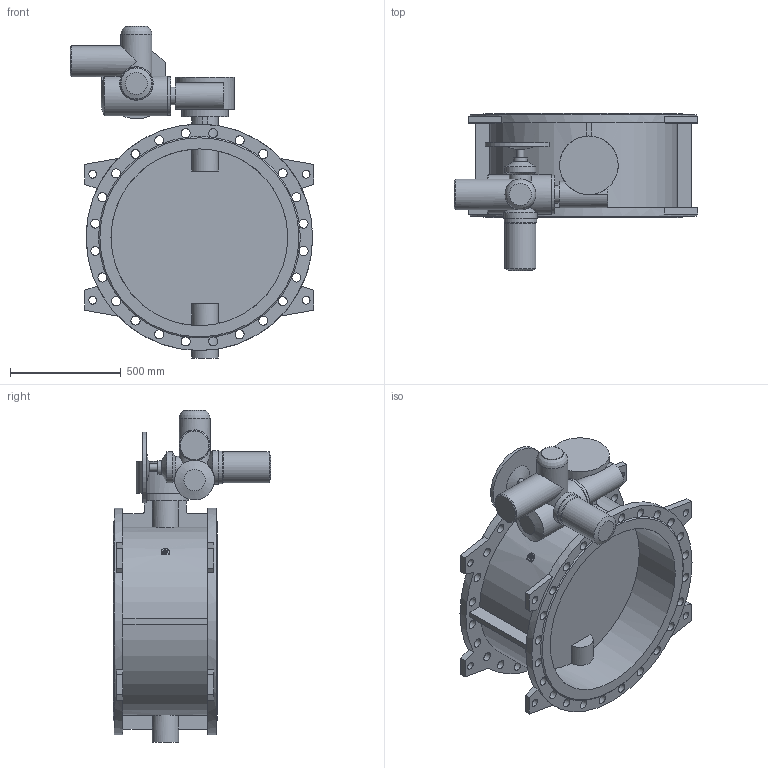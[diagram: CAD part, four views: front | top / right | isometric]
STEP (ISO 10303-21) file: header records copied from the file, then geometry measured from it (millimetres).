
FILE_DESCRIPTION(('STEP AP203'), '1');
FILE_NAME('Çàòâîð 023F.Z DN800 PN16 + ðåäóêòîð + ÌÒ903.À30', '', ('UNSPECIFIED'), ('UNSPECIFIED'), 'ASCON STEP Converter 1.6', 'ASCON Math Kernel', '');
FILE_SCHEMA(('CONFIG_CONTROL_DESIGN'));
Length unit declared in the file: millimetre
Bounding box: 1103 x 711.5 x 1502 mm (x, y, z)
Volume: 121471707.5 mm3; surface area: 6083521.2 mm2
Topology: 1 solids, 1 shells, 232 faces, 724 edges, 478 vertices
Faces by surface type: cylinder 114, plane 106, cone 11, torus 1
Full cylindrical faces by diameter (mm): 14 x4, 18 x4, 18.5 x4, 23 x4, 32 x1, 35 x8, 41 x48, 60 x1, 80 x1, 100 x1, 120 x2, 140 x4, 147 x1, 151 x1, 175 x1, 180 x1, 210 x1, 265 x1, 800 x2, 1025 x2
Entity records: 14010 total; most frequent: CARTESIAN_POINT 5754, DIRECTION 1336, ORIENTED_EDGE 1238, EDGE_CURVE 619, AXIS2_PLACEMENT_3D 572, VERTEX_POINT 477, EDGE_LOOP 430, CIRCLE 340
